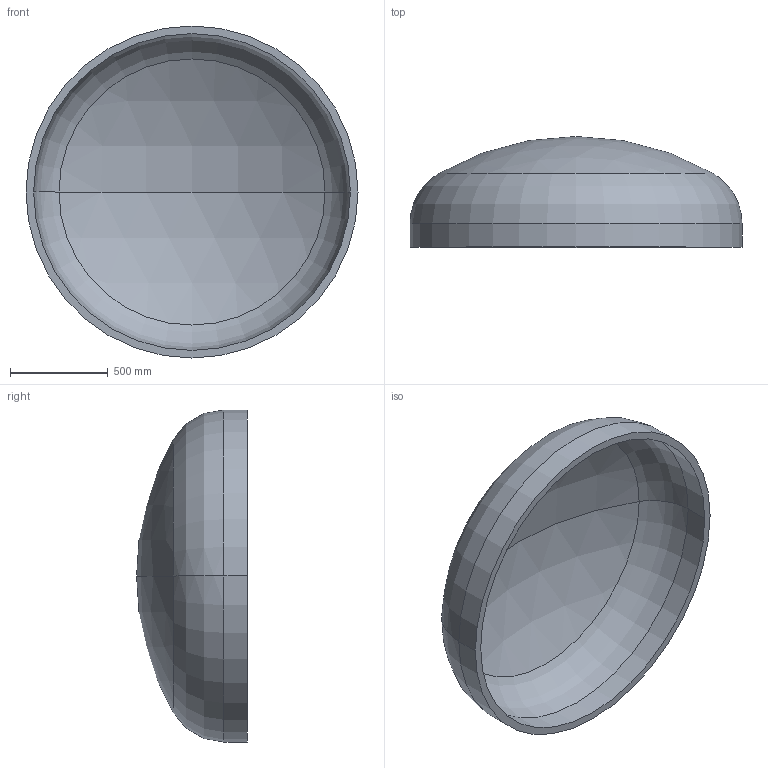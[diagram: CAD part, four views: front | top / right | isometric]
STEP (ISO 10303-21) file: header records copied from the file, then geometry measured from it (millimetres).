
FILE_DESCRIPTION (( 'STEP AP203' ), '1' );
FILE_NAME ('DIN 28013 Korbbogenform_-_Boden DIN 28013 - 1700 x 120 - I - s=39.step', '2016-07-01T11:48:48', ( '' ), ( '' ), 'SwSTEP 2.0', 'SolidWorks 2013', '' );
FILE_SCHEMA (( 'CONFIG_CONTROL_DESIGN' ));
Length unit declared in the file: millimetre
Products named in the file (1): DIN 28013 Korbbogenform_-_Boden DIN 28013 - 1700 x 120 - I - s=39
Bounding box: 1700 x 566.95 x 1700 mm (x, y, z)
Volume: 143220366.6 mm3; surface area: 7551326.7 mm2
Topology: 1 solids, 1 shells, 13 faces, 24 edges, 14 vertices
Faces by surface type: torus 4, cylinder 4, sphere 4, plane 1
Entity records: 407 total; most frequent: DIRECTION 72, CARTESIAN_POINT 52, ORIENTED_EDGE 48, AXIS2_PLACEMENT_3D 34, EDGE_CURVE 24, CIRCLE 20, EDGE_LOOP 14, VERTEX_POINT 14
